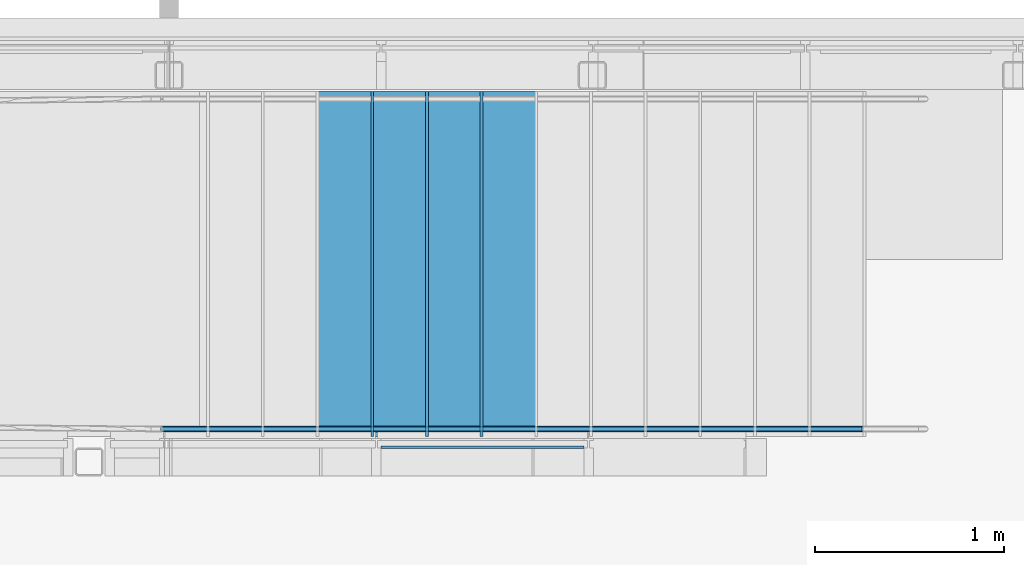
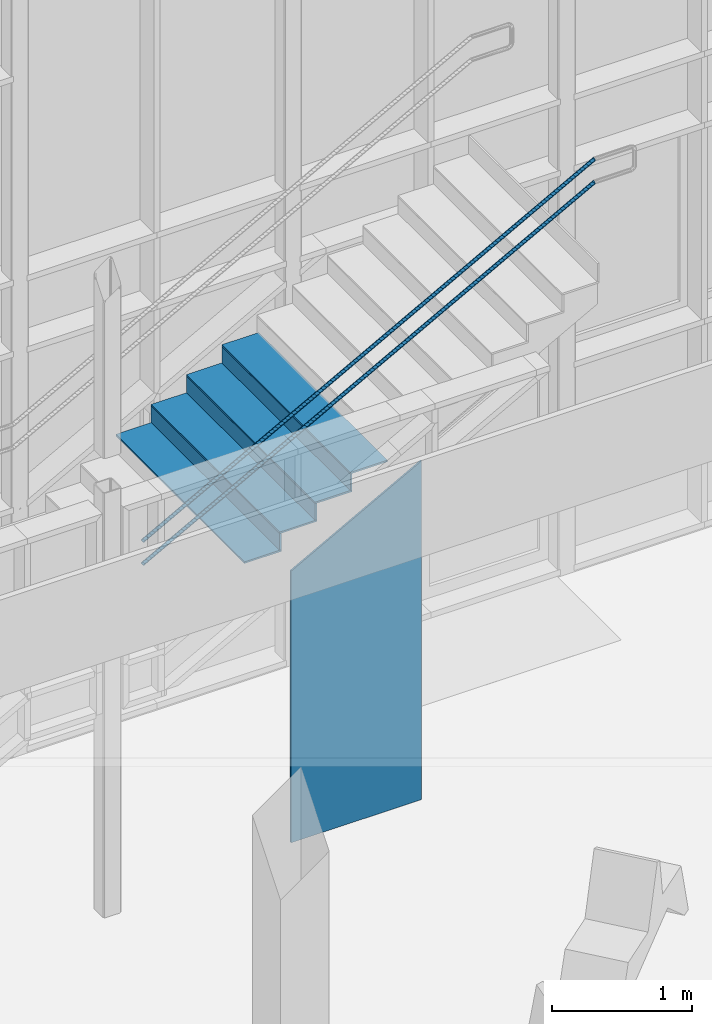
# One storey, part 198 of 301: 9 building element parts, 1 discrete accessory, 2 elements without a shape of their own.
"""IFC2X3 building model written with IfcOpenShell, lengths in millimetres."""

from ifc_helpers import new_model, entity, si_unit, converted_unit, derived_unit, money_unit, direction, frame, origin_with_axes, place, context, subcontext, project, spatial, faceted_brep, material, type_object, element, aggregate, save


model = new_model("IFC2X3")

# Units and contexts
model_context = context("Model", 3, precision=0.01, world=origin_with_axes(), true_north=direction((0.0, 1.0)))
body_context = subcontext(model_context, "Body", "Model", "MODEL_VIEW")
ifc_project = project(units=[si_unit("LENGTHUNIT", "METRE", prefix="MILLI"), si_unit("AREAUNIT", "SQUARE_METRE"), si_unit("VOLUMEUNIT", "CUBIC_METRE"), converted_unit("PLANEANGLEUNIT", "DEGREE", entity("IfcPlaneAngleMeasure", 0.0174532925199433), si_unit("PLANEANGLEUNIT", "RADIAN"), dimensions=[0, 0, 0, 0, 0, 0, 0]), money_unit("EUR"), converted_unit("TIMEUNIT", "Year", entity("IfcTimeMeasure", 31557600.0), si_unit("TIMEUNIT", "SECOND"), dimensions=[0, 0, 1, 0, 0, 0, 0]), si_unit("MASSUNIT", "GRAM", prefix="KILO"), si_unit("THERMODYNAMICTEMPERATUREUNIT", "DEGREE_CELSIUS"), si_unit("LUMINOUSINTENSITYUNIT", "LUMEN"), si_unit("ENERGYUNIT", "JOULE", prefix="MEGA"), derived_unit("THERMALCONDUCTANCEUNIT", [(si_unit("POWERUNIT", "WATT"), 1), (si_unit("LENGTHUNIT", "METRE"), -1), (si_unit("THERMODYNAMICTEMPERATUREUNIT", "KELVIN"), -1)]), derived_unit("SPECIFICHEATCAPACITYUNIT", [(si_unit("ENERGYUNIT", "JOULE"), 1), (si_unit("MASSUNIT", "GRAM", prefix="KILO"), -1), (si_unit("THERMODYNAMICTEMPERATUREUNIT", "KELVIN"), -1)]), derived_unit("MASSDENSITYUNIT", [(si_unit("MASSUNIT", "GRAM", prefix="KILO"), 1), (si_unit("VOLUMEUNIT", "CUBIC_METRE"), -1)])], contexts=[model_context])

# Site, building, storey
site_placement = place(None, frame((0.0, 0.0, 8650.0), z_axis=(0.0, 0.0, 1.0), x_axis=(1.0, 0.0, 0.0)))
site = spatial("IfcSite", under=ifc_project, at=site_placement, Name="43301:001:0844", CompositionType="ELEMENT")
building_placement = place(site_placement, origin_with_axes())
building = spatial("IfcBuilding", under=site, at=building_placement, Name="Kuressaare Ametikooli tuulikute mehaanikute õppekorpus", CompositionType="ELEMENT")
storey_placement = place(building_placement, origin_with_axes())
storey = spatial("IfcBuildingStorey", under=building, at=storey_placement, Name="1.korrus", CompositionType="ELEMENT", Elevation=0.0)

# Discrete accessory
ifc_material_1 = material(Name="GENEERILINE - EHITUSTOODE")
discrete_accessory_type = type_object("IfcDiscreteAccessoryType", Name="GENEERILINE - EHITUSTOODE")
discrete_accessory_placement = place(storey_placement, frame((112767.1024781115, 26455.08295790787, 0.0), z_axis=(0.0, 0.0, 1.0), x_axis=(1.0, 0.0, 0.0)))
element("IfcDiscreteAccessory", 1, at=discrete_accessory_placement, inside=storey, type_object=discrete_accessory_type, material=ifc_material_1, Name="Majajuht", context=body_context, shape_type="Brep", body=[
    faceted_brep([(0.0, 0.0, 2359.085482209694), (0.0, 15.00000000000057, 2359.085482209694), (0.0, 15.00000000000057, 0.0), (0.0, 0.0, 0.0), (1074.999966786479, 15.00000000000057, 2943.6345388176), (1074.999966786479, 15.00000000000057, 0.0), (1074.999966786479, 0.0, 0.0), (1074.999966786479, 0.0, 2943.6345388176)], [[[0, 1, 2, 3]], [[1, 0, 4]], [[2, 1, 4, 5]], [[6, 3, 2, 5]], [[0, 3, 6, 7]], [[0, 7, 4]], [[6, 5, 4]], [[7, 6, 4]]]),
])

# Railing, building element parts
railing_type = type_object("IfcRailingType", Name="Railing Type", PredefinedType="NOTDEFINED")
railing_placement = place(storey_placement, frame((107882.9493746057, 26509.57374875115, 157.6923606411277), z_axis=(0.0, 0.0, 1.0), x_axis=(1.0, 0.0, 0.0)))
railing = element("IfcRailing", 2, at=railing_placement, inside=storey, type_object=railing_type, Name="Piire", PredefinedType="NOTDEFINED")
ifc_material_2 = material(Name="Metall - Teras - Roostevaba")
building_element_part_1_placement = place(railing_placement, origin_with_axes())
building_element_part_1 = element("IfcBuildingElementPart", 3, at=building_element_part_1_placement, material=ifc_material_2, Name="Metall - Teras - Roostevaba", context=body_context, shape_type="Brep", body=[
    faceted_brep([(3723.897436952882, 50.86824088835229, 2602.1154117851), (3723.933724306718, 50.00000000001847, 2602.048678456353), (7439.239325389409, 50.00000000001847, 4622.307692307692), (7439.220008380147, 50.86824088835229, 4622.383653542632), (3728.601950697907, 52.60472266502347, 2593.463696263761), (3728.710812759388, 50.00000000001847, 2593.263496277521), (3728.601950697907, 47.39527733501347, 2593.463696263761), (3728.278672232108, 44.86969785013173, 2594.058213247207), (3727.75080001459, 42.50000000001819, 2595.028983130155), (3727.03437317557, 40.35818585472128, 2596.346509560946), (3726.15115998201, 38.50933335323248, 2597.970760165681), (3725.127996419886, 37.00961894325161, 2599.852382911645), (3723.995970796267, 35.90461068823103, 2601.93420564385), (3722.789479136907, 35.22788370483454, 2604.15297323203), (3721.545180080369, 35.00000000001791, 2606.441269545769), (3720.300881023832, 35.22788370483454, 2608.729565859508), (3719.094389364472, 35.90461068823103, 2610.948333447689), (3717.962363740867, 37.00961894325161, 2613.030156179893), (3716.939200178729, 38.50933335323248, 2614.911778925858), (3716.055986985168, 40.35818585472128, 2616.536029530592), (3715.339560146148, 42.50000000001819, 2617.853555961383), (3714.811687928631, 44.86969785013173, 2618.824325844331), (3714.488409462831, 47.39527733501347, 2619.418842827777), (3714.37954740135, 50.00000000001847, 2619.619042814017), (3714.488409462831, 52.60472266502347, 2619.418842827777), (3714.811687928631, 55.13030214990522, 2618.824325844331), (3715.339560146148, 57.50000000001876, 2617.853555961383), (3716.055986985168, 59.64181414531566, 2616.536029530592), (3716.939200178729, 61.49066664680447, 2614.911778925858), (3717.962363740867, 62.99038105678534, 2613.030156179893), (3719.094389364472, 64.09538931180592, 2610.948333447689), (3720.300881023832, 64.77211629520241, 2608.729565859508), (3721.545180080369, 65.00000000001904, 2606.441269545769), (3722.789479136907, 64.77211629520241, 2604.15297323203), (3723.995970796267, 64.09538931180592, 2601.93420564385), (3725.127996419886, 62.99038105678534, 2599.852382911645), (3726.15115998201, 61.49066664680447, 2597.970760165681), (3727.03437317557, 59.64181414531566, 2596.346509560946), (3727.75080001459, 57.50000000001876, 2595.028983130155), (3728.278672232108, 55.13030214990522, 2594.058213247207), (3723.897436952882, 49.13175911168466, 2602.1154117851), (3723.789677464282, 51.71010071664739, 2602.313584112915), (3723.613720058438, 52.50000000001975, 2602.637174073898), (3723.374911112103, 53.21393804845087, 2603.076349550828), (3723.080506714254, 53.83022221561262, 2603.617766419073), (3722.739452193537, 54.33012701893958, 2604.244974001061), (3722.362110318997, 54.69846310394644, 2604.938914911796), (3721.959946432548, 54.92403876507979, 2605.678504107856), (3721.545180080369, 55.00000000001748, 2606.441269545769), (3721.13041372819, 54.92403876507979, 2607.204034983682), (3720.728249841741, 54.69846310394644, 2607.943624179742), (3720.350907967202, 54.33012701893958, 2608.637565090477), (3720.009853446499, 53.83022221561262, 2609.264772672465), (3719.715449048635, 53.21393804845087, 2609.80618954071), (3719.4766401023, 52.50000000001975, 2610.24536501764), (3719.300682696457, 51.71010071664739, 2610.568954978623), (3719.192923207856, 50.86824088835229, 2610.767127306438), (3719.156635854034, 50.00000000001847, 2610.833860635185), (3719.192923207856, 49.13175911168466, 2610.767127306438), (3719.300682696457, 48.28989928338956, 2610.568954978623), (3719.4766401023, 47.5000000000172, 2610.24536501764), (3719.715449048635, 46.78606195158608, 2609.80618954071), (3720.009853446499, 46.16977778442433, 2609.264772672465), (3720.350907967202, 45.66987298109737, 2608.637565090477), (3720.728249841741, 45.30153689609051, 2607.943624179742), (3721.13041372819, 45.07596123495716, 2607.204034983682), (3721.545180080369, 45.00000000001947, 2606.441269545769), (3721.959946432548, 45.07596123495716, 2605.678504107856), (3722.362110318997, 45.30153689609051, 2604.938914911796), (3722.739452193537, 45.66987298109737, 2604.244974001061), (3723.080506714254, 46.16977778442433, 2603.617766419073), (3723.374911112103, 46.78606195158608, 2603.076349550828), (3723.613720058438, 47.5000000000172, 2602.637174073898), (3723.789677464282, 48.28989928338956, 2602.313584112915), (7439.220008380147, 49.13175911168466, 4622.383653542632), (7439.875077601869, 62.99038105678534, 4619.807692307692), (7439.272461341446, 64.09538931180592, 4622.177390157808), (7438.630204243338, 64.77211629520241, 4624.702969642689), (7437.967820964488, 65.00000000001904, 4627.307692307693), (7437.305437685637, 64.77211629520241, 4629.912414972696), (7436.66318058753, 64.09538931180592, 4632.437994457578), (7436.060564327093, 62.99038105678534, 4634.807692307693), (7435.515899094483, 61.49066664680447, 4636.94950645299), (7435.045734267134, 59.64181414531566, 4638.798358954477), (7434.664355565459, 57.50000000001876, 4640.29807336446), (7434.383350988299, 55.13030214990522, 4641.403081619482), (7434.211258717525, 52.60472266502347, 4642.079808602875), (7434.153307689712, 50.00000000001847, 4642.307692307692), (7434.211258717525, 47.39527733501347, 4642.079808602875), (7434.383350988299, 44.86969785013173, 4641.403081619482), (7434.664355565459, 42.50000000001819, 4640.29807336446), (7435.045734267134, 40.35818585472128, 4638.798358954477), (7435.515899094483, 38.50933335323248, 4636.94950645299), (7436.060564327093, 37.00961894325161, 4634.807692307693), (7436.66318058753, 35.90461068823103, 4632.437994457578), (7437.305437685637, 35.22788370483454, 4629.912414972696), (7437.967820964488, 35.00000000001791, 4627.307692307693), (7438.630204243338, 35.22788370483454, 4624.702969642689), (7439.272461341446, 35.90461068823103, 4622.177390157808), (7439.875077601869, 37.00961894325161, 4619.807692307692), (7440.419742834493, 38.50933335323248, 4617.665878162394), (7440.889907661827, 40.35818585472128, 4615.817025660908), (7441.271286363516, 42.50000000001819, 4614.317311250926), (7441.552290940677, 44.86969785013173, 4613.212302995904), (7441.724383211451, 47.39527733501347, 4612.535576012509), (7441.782334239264, 50.00000000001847, 4612.307692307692), (7441.724383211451, 52.60472266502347, 4612.535576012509), (7441.552290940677, 55.13030214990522, 4613.212302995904), (7441.271286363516, 57.50000000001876, 4614.317311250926), (7440.889907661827, 59.64181414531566, 4615.817025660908), (7440.419742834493, 61.49066664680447, 4617.665878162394), (7437.332068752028, 54.33012701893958, 4629.807692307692), (7437.532940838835, 54.69846310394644, 4629.017793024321), (7437.747026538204, 54.92403876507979, 4628.175933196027), (7437.967820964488, 55.00000000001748, 4627.307692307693), (7438.188615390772, 54.92403876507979, 4626.439451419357), (7438.402701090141, 54.69846310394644, 4625.597591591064), (7438.603573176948, 54.33012701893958, 4624.807692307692), (7438.785128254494, 53.83022221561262, 4624.093754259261), (7438.941849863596, 53.21393804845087, 4623.477470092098), (7439.068976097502, 52.50000000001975, 4622.97756528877), (7439.16264428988, 51.71010071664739, 4622.609229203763), (7439.16264428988, 48.28989928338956, 4622.609229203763), (7439.068976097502, 47.5000000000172, 4622.97756528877), (7438.941849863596, 46.78606195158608, 4623.477470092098), (7438.785128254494, 46.16977778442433, 4624.093754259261), (7438.603573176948, 45.66987298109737, 4624.807692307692), (7438.402701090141, 45.30153689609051, 4625.597591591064), (7438.188615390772, 45.07596123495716, 4626.439451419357), (7437.967820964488, 45.00000000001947, 4627.307692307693), (7437.747026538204, 45.07596123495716, 4628.175933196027), (7437.532940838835, 45.30153689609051, 4629.017793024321), (7437.332068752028, 45.66987298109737, 4629.807692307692), (7437.150513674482, 46.16977778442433, 4630.521630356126), (7436.993792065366, 46.78606195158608, 4631.137914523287), (7436.866665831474, 47.5000000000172, 4631.637819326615), (7436.772997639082, 48.28989928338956, 4632.006155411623), (7436.715633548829, 49.13175911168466, 4632.231731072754), (7436.696316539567, 50.00000000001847, 4632.307692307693), (7436.715633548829, 50.86824088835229, 4632.231731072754), (7436.772997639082, 51.71010071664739, 4632.006155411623), (7436.866665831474, 52.50000000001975, 4631.637819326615), (7436.993792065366, 53.21393804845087, 4631.137914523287), (7437.150513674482, 53.83022221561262, 4630.521630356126)], [[[0, 1, 2, 3]], [[4, 5, 6, 7, 8, 9, 10, 11, 12, 13, 14, 15, 16, 17, 18, 19, 20, 21, 22, 23, 24, 25, 26, 27, 28, 29, 30, 31, 32, 33, 34, 35, 36, 37, 38, 39], [40, 1, 0, 41, 42, 43, 44, 45, 46, 47, 48, 49, 50, 51, 52, 53, 54, 55, 56, 57, 58, 59, 60, 61, 62, 63, 64, 65, 66, 67, 68, 69, 70, 71, 72, 73]], [[1, 40, 74, 2]], [[75, 76, 77, 78, 79, 80, 81, 82, 83, 84, 85, 86, 87, 88, 89, 90, 91, 92, 93, 94, 95, 96, 97, 98, 99, 100, 101, 102, 103, 104, 105, 106, 107, 108, 109, 110], [111, 112, 113, 114, 115, 116, 117, 118, 119, 120, 121, 3, 2, 74, 122, 123, 124, 125, 126, 127, 128, 129, 130, 131, 132, 133, 134, 135, 136, 137, 138, 139, 140, 141, 142, 143]], [[41, 0, 3, 121]], [[5, 4, 106, 105]], [[6, 5, 105, 104]], [[7, 6, 104, 103]], [[8, 7, 103, 102]], [[9, 8, 102, 101]], [[10, 9, 101, 100]], [[11, 10, 100, 99]], [[12, 11, 99, 98]], [[13, 12, 98, 97]], [[14, 13, 97, 96]], [[15, 14, 96, 95]], [[16, 15, 95, 94]], [[17, 16, 94, 93]], [[18, 17, 93, 92]], [[19, 18, 92, 91]], [[20, 19, 91, 90]], [[21, 20, 90, 89]], [[22, 21, 89, 88]], [[23, 22, 88, 87]], [[24, 23, 87, 86]], [[25, 24, 86, 85]], [[26, 25, 85, 84]], [[27, 26, 84, 83]], [[28, 27, 83, 82]], [[29, 28, 82, 81]], [[30, 29, 81, 80]], [[31, 30, 80, 79]], [[32, 31, 79, 78]], [[33, 32, 78, 77]], [[34, 33, 77, 76]], [[35, 34, 76, 75]], [[36, 35, 75, 110]], [[37, 36, 110, 109]], [[38, 37, 109, 108]], [[39, 38, 108, 107]], [[4, 39, 107, 106]], [[42, 41, 121, 120]], [[43, 42, 120, 119]], [[44, 43, 119, 118]], [[45, 44, 118, 117]], [[46, 45, 117, 116]], [[47, 46, 116, 115]], [[48, 47, 115, 114]], [[49, 48, 114, 113]], [[50, 49, 113, 112]], [[51, 50, 112, 111]], [[52, 51, 111, 143]], [[53, 52, 143, 142]], [[54, 53, 142, 141]], [[55, 54, 141, 140]], [[56, 55, 140, 139]], [[57, 56, 139, 138]], [[58, 57, 138, 137]], [[59, 58, 137, 136]], [[60, 59, 136, 135]], [[61, 60, 135, 134]], [[62, 61, 134, 133]], [[63, 62, 133, 132]], [[64, 63, 132, 131]], [[65, 64, 131, 130]], [[66, 65, 130, 129]], [[67, 66, 129, 128]], [[68, 67, 128, 127]], [[69, 68, 127, 126]], [[70, 69, 126, 125]], [[71, 70, 125, 124]], [[72, 71, 124, 123]], [[73, 72, 123, 122]], [[40, 73, 122, 74]]]),
])
building_element_part_2_placement = place(railing_placement, origin_with_axes())
building_element_part_2 = element("IfcBuildingElementPart", 4, at=building_element_part_2_placement, material=ifc_material_2, Name="Metall - Teras - Roostevaba", context=body_context, shape_type="Brep", body=[
    faceted_brep([(3723.897436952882, 50.86824088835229, 2802.1154117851), (3723.933724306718, 50.00000000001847, 2802.048678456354), (7439.239325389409, 50.00000000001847, 4822.307692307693), (7439.220008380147, 50.86824088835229, 4822.383653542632), (3728.601950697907, 52.60472266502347, 2793.463696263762), (3728.710812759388, 50.00000000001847, 2793.263496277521), (3728.601950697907, 47.39527733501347, 2793.463696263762), (3728.278672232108, 44.86969785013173, 2794.058213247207), (3727.75080001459, 42.50000000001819, 2795.028983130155), (3727.03437317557, 40.35818585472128, 2796.346509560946), (3726.15115998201, 38.50933335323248, 2797.970760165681), (3725.127996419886, 37.00961894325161, 2799.852382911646), (3723.995970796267, 35.90461068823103, 2801.93420564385), (3722.789479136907, 35.22788370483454, 2804.15297323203), (3721.545180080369, 35.00000000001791, 2806.441269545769), (3720.300881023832, 35.22788370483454, 2808.729565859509), (3719.094389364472, 35.90461068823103, 2810.948333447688), (3717.962363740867, 37.00961894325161, 2813.030156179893), (3716.939200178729, 38.50933335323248, 2814.911778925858), (3716.055986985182, 40.35818585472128, 2816.536029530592), (3715.339560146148, 42.50000000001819, 2817.853555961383), (3714.811687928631, 44.86969785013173, 2818.824325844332), (3714.488409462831, 47.39527733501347, 2819.418842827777), (3714.37954740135, 50.00000000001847, 2819.619042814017), (3714.488409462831, 52.60472266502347, 2819.418842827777), (3714.811687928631, 55.13030214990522, 2818.824325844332), (3715.339560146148, 57.50000000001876, 2817.853555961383), (3716.055986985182, 59.64181414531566, 2816.536029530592), (3716.939200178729, 61.49066664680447, 2814.911778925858), (3717.962363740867, 62.99038105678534, 2813.030156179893), (3719.094389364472, 64.09538931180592, 2810.948333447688), (3720.300881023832, 64.77211629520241, 2808.729565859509), (3721.545180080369, 65.00000000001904, 2806.441269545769), (3722.789479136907, 64.77211629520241, 2804.15297323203), (3723.995970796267, 64.09538931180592, 2801.93420564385), (3725.127996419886, 62.99038105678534, 2799.852382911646), (3726.15115998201, 61.49066664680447, 2797.970760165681), (3727.03437317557, 59.64181414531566, 2796.346509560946), (3727.75080001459, 57.50000000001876, 2795.028983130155), (3728.278672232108, 55.13030214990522, 2794.058213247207), (3723.897436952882, 49.13175911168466, 2802.1154117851), (3723.789677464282, 51.71010071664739, 2802.313584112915), (3723.613720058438, 52.50000000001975, 2802.637174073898), (3723.374911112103, 53.21393804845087, 2803.076349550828), (3723.080506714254, 53.83022221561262, 2803.617766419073), (3722.739452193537, 54.33012701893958, 2804.244974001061), (3722.362110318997, 54.69846310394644, 2804.938914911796), (3721.959946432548, 54.92403876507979, 2805.678504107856), (3721.545180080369, 55.00000000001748, 2806.441269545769), (3721.13041372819, 54.92403876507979, 2807.204034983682), (3720.728249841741, 54.69846310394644, 2807.943624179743), (3720.350907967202, 54.33012701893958, 2808.637565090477), (3720.009853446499, 53.83022221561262, 2809.264772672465), (3719.715449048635, 53.21393804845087, 2809.80618954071), (3719.4766401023, 52.50000000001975, 2810.245365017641), (3719.300682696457, 51.71010071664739, 2810.568954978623), (3719.192923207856, 50.86824088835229, 2810.767127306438), (3719.156635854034, 50.00000000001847, 2810.833860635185), (3719.192923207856, 49.13175911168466, 2810.767127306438), (3719.300682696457, 48.28989928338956, 2810.568954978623), (3719.4766401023, 47.5000000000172, 2810.245365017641), (3719.715449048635, 46.78606195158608, 2809.80618954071), (3720.009853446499, 46.16977778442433, 2809.264772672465), (3720.350907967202, 45.66987298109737, 2808.637565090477), (3720.728249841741, 45.30153689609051, 2807.943624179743), (3721.13041372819, 45.07596123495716, 2807.204034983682), (3721.545180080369, 45.00000000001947, 2806.441269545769), (3721.959946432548, 45.07596123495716, 2805.678504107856), (3722.362110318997, 45.30153689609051, 2804.938914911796), (3722.739452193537, 45.66987298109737, 2804.244974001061), (3723.080506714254, 46.16977778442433, 2803.617766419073), (3723.374911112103, 46.78606195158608, 2803.076349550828), (3723.613720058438, 47.5000000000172, 2802.637174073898), (3723.789677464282, 48.28989928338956, 2802.313584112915), (7439.220008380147, 49.13175911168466, 4822.383653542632), (7439.875077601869, 62.99038105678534, 4819.807692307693), (7439.272461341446, 64.09538931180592, 4822.177390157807), (7438.630204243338, 64.77211629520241, 4824.702969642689), (7437.967820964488, 65.00000000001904, 4827.307692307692), (7437.305437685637, 64.77211629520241, 4829.912414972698), (7436.66318058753, 64.09538931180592, 4832.437994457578), (7436.060564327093, 62.99038105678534, 4834.807692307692), (7435.515899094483, 61.49066664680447, 4836.949506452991), (7435.045734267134, 59.64181414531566, 4838.798358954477), (7434.664355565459, 57.50000000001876, 4840.298073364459), (7434.383350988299, 55.13030214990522, 4841.403081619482), (7434.211258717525, 52.60472266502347, 4842.079808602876), (7434.153307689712, 50.00000000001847, 4842.307692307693), (7434.211258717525, 47.39527733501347, 4842.079808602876), (7434.383350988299, 44.86969785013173, 4841.403081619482), (7434.664355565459, 42.50000000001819, 4840.298073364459), (7435.045734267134, 40.35818585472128, 4838.798358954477), (7435.515899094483, 38.50933335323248, 4836.949506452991), (7436.060564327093, 37.00961894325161, 4834.807692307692), (7436.66318058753, 35.90461068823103, 4832.437994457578), (7437.305437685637, 35.22788370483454, 4829.912414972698), (7437.967820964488, 35.00000000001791, 4827.307692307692), (7438.630204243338, 35.22788370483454, 4824.702969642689), (7439.272461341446, 35.90461068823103, 4822.177390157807), (7439.875077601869, 37.00961894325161, 4819.807692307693), (7440.419742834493, 38.50933335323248, 4817.665878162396), (7440.889907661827, 40.35818585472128, 4815.817025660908), (7441.271286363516, 42.50000000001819, 4814.317311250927), (7441.552290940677, 44.86969785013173, 4813.212302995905), (7441.724383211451, 47.39527733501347, 4812.53557601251), (7441.782334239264, 50.00000000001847, 4812.307692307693), (7441.724383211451, 52.60472266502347, 4812.53557601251), (7441.552290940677, 55.13030214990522, 4813.212302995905), (7441.271286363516, 57.50000000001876, 4814.317311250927), (7440.889907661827, 59.64181414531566, 4815.817025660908), (7440.419742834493, 61.49066664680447, 4817.665878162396), (7437.332068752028, 54.33012701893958, 4829.807692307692), (7437.532940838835, 54.69846310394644, 4829.017793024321), (7437.747026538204, 54.92403876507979, 4828.175933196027), (7437.967820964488, 55.00000000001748, 4827.307692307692), (7438.188615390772, 54.92403876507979, 4826.439451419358), (7438.402701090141, 54.69846310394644, 4825.597591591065), (7438.603573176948, 54.33012701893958, 4824.807692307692), (7438.785128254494, 53.83022221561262, 4824.09375425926), (7438.941849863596, 53.21393804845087, 4823.477470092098), (7439.068976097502, 52.50000000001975, 4822.977565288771), (7439.16264428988, 51.71010071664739, 4822.609229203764), (7439.16264428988, 48.28989928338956, 4822.609229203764), (7439.068976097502, 47.5000000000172, 4822.977565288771), (7438.941849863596, 46.78606195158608, 4823.477470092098), (7438.785128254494, 46.16977778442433, 4824.09375425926), (7438.603573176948, 45.66987298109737, 4824.807692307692), (7438.402701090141, 45.30153689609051, 4825.597591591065), (7438.188615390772, 45.07596123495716, 4826.439451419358), (7437.967820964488, 45.00000000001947, 4827.307692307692), (7437.747026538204, 45.07596123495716, 4828.175933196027), (7437.532940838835, 45.30153689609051, 4829.017793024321), (7437.332068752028, 45.66987298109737, 4829.807692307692), (7437.150513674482, 46.16977778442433, 4830.521630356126), (7436.993792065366, 46.78606195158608, 4831.137914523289), (7436.866665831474, 47.5000000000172, 4831.637819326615), (7436.772997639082, 48.28989928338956, 4832.006155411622), (7436.715633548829, 49.13175911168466, 4832.231731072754), (7436.696316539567, 50.00000000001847, 4832.307692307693), (7436.715633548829, 50.86824088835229, 4832.231731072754), (7436.772997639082, 51.71010071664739, 4832.006155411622), (7436.866665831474, 52.50000000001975, 4831.637819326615), (7436.993792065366, 53.21393804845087, 4831.137914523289), (7437.150513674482, 53.83022221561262, 4830.521630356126)], [[[0, 1, 2, 3]], [[4, 5, 6, 7, 8, 9, 10, 11, 12, 13, 14, 15, 16, 17, 18, 19, 20, 21, 22, 23, 24, 25, 26, 27, 28, 29, 30, 31, 32, 33, 34, 35, 36, 37, 38, 39], [40, 1, 0, 41, 42, 43, 44, 45, 46, 47, 48, 49, 50, 51, 52, 53, 54, 55, 56, 57, 58, 59, 60, 61, 62, 63, 64, 65, 66, 67, 68, 69, 70, 71, 72, 73]], [[1, 40, 74, 2]], [[75, 76, 77, 78, 79, 80, 81, 82, 83, 84, 85, 86, 87, 88, 89, 90, 91, 92, 93, 94, 95, 96, 97, 98, 99, 100, 101, 102, 103, 104, 105, 106, 107, 108, 109, 110], [111, 112, 113, 114, 115, 116, 117, 118, 119, 120, 121, 3, 2, 74, 122, 123, 124, 125, 126, 127, 128, 129, 130, 131, 132, 133, 134, 135, 136, 137, 138, 139, 140, 141, 142, 143]], [[41, 0, 3, 121]], [[5, 4, 106, 105]], [[6, 5, 105, 104]], [[7, 6, 104, 103]], [[8, 7, 103, 102]], [[9, 8, 102, 101]], [[10, 9, 101, 100]], [[11, 10, 100, 99]], [[12, 11, 99, 98]], [[13, 12, 98, 97]], [[14, 13, 97, 96]], [[15, 14, 96, 95]], [[16, 15, 95, 94]], [[17, 16, 94, 93]], [[18, 17, 93, 92]], [[19, 18, 92, 91]], [[20, 19, 91, 90]], [[21, 20, 90, 89]], [[22, 21, 89, 88]], [[23, 22, 88, 87]], [[24, 23, 87, 86]], [[25, 24, 86, 85]], [[26, 25, 85, 84]], [[27, 26, 84, 83]], [[28, 27, 83, 82]], [[29, 28, 82, 81]], [[30, 29, 81, 80]], [[31, 30, 80, 79]], [[32, 31, 79, 78]], [[33, 32, 78, 77]], [[34, 33, 77, 76]], [[35, 34, 76, 75]], [[36, 35, 75, 110]], [[37, 36, 110, 109]], [[38, 37, 109, 108]], [[39, 38, 108, 107]], [[4, 39, 107, 106]], [[42, 41, 121, 120]], [[43, 42, 120, 119]], [[44, 43, 119, 118]], [[45, 44, 118, 117]], [[46, 45, 117, 116]], [[47, 46, 116, 115]], [[48, 47, 115, 114]], [[49, 48, 114, 113]], [[50, 49, 113, 112]], [[51, 50, 112, 111]], [[52, 51, 111, 143]], [[53, 52, 143, 142]], [[54, 53, 142, 141]], [[55, 54, 141, 140]], [[56, 55, 140, 139]], [[57, 56, 139, 138]], [[58, 57, 138, 137]], [[59, 58, 137, 136]], [[60, 59, 136, 135]], [[61, 60, 135, 134]], [[62, 61, 134, 133]], [[63, 62, 133, 132]], [[64, 63, 132, 131]], [[65, 64, 131, 130]], [[66, 65, 130, 129]], [[67, 66, 129, 128]], [[68, 67, 128, 127]], [[69, 68, 127, 126]], [[70, 69, 126, 125]], [[71, 70, 125, 124]], [[72, 71, 124, 123]], [[73, 72, 123, 122]], [[40, 73, 122, 74]]]),
])
aggregate(railing, [building_element_part_1, building_element_part_2])

# Stair, building element parts
stair_placement = place(storey_placement, frame((106962.1026822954, 28349.57374875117, 5.294881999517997e-05), z_axis=(0.0, 0.0, 1.0), x_axis=(1.0, 0.0, 0.0)))
stair = element("IfcStair", 5, at=stair_placement, inside=storey, Name="Trepp1", ShapeType="NOTDEFINED")
ifc_material_3 = material(Name="GENEERILINE - SISEMINE VIIMISTLUS")
building_element_part_3_placement = place(stair_placement, origin_with_axes())
building_element_part_3 = element("IfcBuildingElementPart", 6, at=building_element_part_3_placement, material=ifc_material_3, Name="GENEERILINE - SISEMINE VIIMISTLUS", context=body_context, shape_type="Brep", body=[
    faceted_brep([(5750.000022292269, -1829.999981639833, 2665.76923076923), (5765.00002229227, -1829.999981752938, 2665.76923076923), (5765.000036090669, 1.824706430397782e-05, 2665.76923076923), (5750.000036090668, 1.836016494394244e-05, 2665.76923076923), (5750.000022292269, -1829.999981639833, 2523.076923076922), (5765.00002229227, -1829.999981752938, 2523.076923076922), (5765.000036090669, 1.824706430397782e-05, 2523.076923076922), (5750.000036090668, 1.836016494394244e-05, 2523.076923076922)], [[[0, 1, 2, 3]], [[0, 4, 5, 1]], [[1, 5, 6, 2]], [[3, 2, 6, 7]], [[4, 0, 3, 7]], [[5, 4, 7, 6]]]),
])
building_element_part_4_placement = place(stair_placement, origin_with_axes())
building_element_part_4 = element("IfcBuildingElementPart", 7, at=building_element_part_4_placement, material=ifc_material_3, Name="GENEERILINE - SISEMINE VIIMISTLUS", context=body_context, shape_type="Brep", body=[
    faceted_brep([(6040.000022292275, -1829.999983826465, 2823.461538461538), (6055.000022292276, -1829.999983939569, 2823.461538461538), (6055.000036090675, 1.606043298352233e-05, 2823.461538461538), (6040.000036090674, 1.617353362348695e-05, 2823.461538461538), (6040.000022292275, -1829.999983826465, 2680.76923076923), (6055.000022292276, -1829.999983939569, 2680.76923076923), (6055.000036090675, 1.606043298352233e-05, 2680.76923076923), (6040.000036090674, 1.617353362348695e-05, 2680.76923076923)], [[[0, 1, 2, 3]], [[0, 4, 5, 1]], [[1, 5, 6, 2]], [[3, 2, 6, 7]], [[4, 0, 3, 7]], [[5, 4, 7, 6]]]),
])
building_element_part_5_placement = place(stair_placement, origin_with_axes())
building_element_part_5 = element("IfcBuildingElementPart", 8, at=building_element_part_5_placement, material=ifc_material_3, Name="GENEERILINE - SISEMINE VIIMISTLUS", context=body_context, shape_type="Brep", body=[
    faceted_brep([(6330.000022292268, -1829.999986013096, 2981.153846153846), (6345.000022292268, -1829.9999861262, 2981.153846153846), (6345.000036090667, 1.387380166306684e-05, 2981.153846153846), (6330.000036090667, 1.398690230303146e-05, 2981.153846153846), (6330.000022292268, -1829.999986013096, 2838.461538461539), (6345.000022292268, -1829.9999861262, 2838.461538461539), (6345.000036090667, 1.387380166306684e-05, 2838.461538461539), (6330.000036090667, 1.398690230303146e-05, 2838.461538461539)], [[[0, 1, 2, 3]], [[0, 4, 5, 1]], [[1, 5, 6, 2]], [[3, 2, 6, 7]], [[4, 0, 3, 7]], [[5, 4, 7, 6]]]),
])
building_element_part_6_placement = place(stair_placement, origin_with_axes())
building_element_part_6 = element("IfcBuildingElementPart", 9, at=building_element_part_6_placement, material=ifc_material_3, Name="GENEERILINE - SISEMINE VIIMISTLUS", context=body_context, shape_type="Brep", body=[
    faceted_brep([(5460.000036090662, 2.054679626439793e-05, 2508.076923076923), (5460.000022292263, -1829.999979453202, 2508.076923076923), (5460.000022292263, -1829.999979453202, 2523.076923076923), (5460.000036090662, 2.054679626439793e-05, 2523.076923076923), (5765.000023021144, 1.824706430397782e-05, 2508.076923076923), (5765.000023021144, -1829.999981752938, 2508.076923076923), (5765.000023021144, -1829.999981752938, 2523.076923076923), (5765.000023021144, 1.824706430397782e-05, 2523.076923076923)], [[[0, 1, 2, 3]], [[0, 4, 5, 1]], [[1, 5, 6, 2]], [[3, 2, 6, 7]], [[4, 0, 3, 7]], [[5, 4, 7, 6]]]),
])
building_element_part_7_placement = place(stair_placement, origin_with_axes())
building_element_part_7 = element("IfcBuildingElementPart", 10, at=building_element_part_7_placement, material=ifc_material_3, Name="GENEERILINE - SISEMINE VIIMISTLUS", context=body_context, shape_type="Brep", body=[
    faceted_brep([(5750.000036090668, 1.836016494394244e-05, 2665.76923076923), (5750.000022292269, -1829.999981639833, 2665.76923076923), (5750.000022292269, -1829.999981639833, 2680.76923076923), (5750.000036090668, 1.836016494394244e-05, 2680.76923076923), (6055.000022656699, 1.606043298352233e-05, 2665.76923076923), (6055.000022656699, -1829.999983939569, 2665.76923076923), (6055.000022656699, -1829.999983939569, 2680.76923076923), (6055.000022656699, 1.606043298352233e-05, 2680.76923076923)], [[[0, 1, 2, 3]], [[0, 4, 5, 1]], [[1, 5, 6, 2]], [[3, 2, 6, 7]], [[4, 0, 3, 7]], [[5, 4, 7, 6]]]),
])
building_element_part_8_placement = place(stair_placement, origin_with_axes())
building_element_part_8 = element("IfcBuildingElementPart", 11, at=building_element_part_8_placement, material=ifc_material_3, Name="GENEERILINE - SISEMINE VIIMISTLUS", context=body_context, shape_type="Brep", body=[
    faceted_brep([(6040.000036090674, 1.617353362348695e-05, 2823.461538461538), (6040.000022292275, -1829.999983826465, 2823.461538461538), (6040.000022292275, -1829.999983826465, 2838.461538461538), (6040.000036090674, 1.617353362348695e-05, 2838.461538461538), (6345.000024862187, 1.387380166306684e-05, 2823.461538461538), (6345.000024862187, -1829.9999861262, 2823.461538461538), (6345.000024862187, -1829.9999861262, 2838.461538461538), (6345.000024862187, 1.387380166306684e-05, 2838.461538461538)], [[[0, 1, 2, 3]], [[0, 4, 5, 1]], [[1, 5, 6, 2]], [[3, 2, 6, 7]], [[4, 0, 3, 7]], [[5, 4, 7, 6]]]),
])
building_element_part_9_placement = place(stair_placement, origin_with_axes())
building_element_part_9 = element("IfcBuildingElementPart", 12, at=building_element_part_9_placement, material=ifc_material_3, Name="GENEERILINE - SISEMINE VIIMISTLUS", context=body_context, shape_type="Brep", body=[
    faceted_brep([(6330.000036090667, 1.398690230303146e-05, 2981.153846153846), (6330.000022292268, -1829.999986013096, 2981.153846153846), (6330.000022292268, -1829.999986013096, 2996.153846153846), (6330.000036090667, 1.398690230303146e-05, 2996.153846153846), (6635.000024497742, 1.168717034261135e-05, 2981.153846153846), (6635.000024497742, -1829.999988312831, 2981.153846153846), (6635.000024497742, -1829.999988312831, 2996.153846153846), (6635.000024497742, 1.168717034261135e-05, 2996.153846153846)], [[[0, 1, 2, 3]], [[0, 4, 5, 1]], [[1, 5, 6, 2]], [[3, 2, 6, 7]], [[4, 0, 3, 7]], [[5, 4, 7, 6]]]),
])
aggregate(stair, [building_element_part_3, building_element_part_4, building_element_part_5, building_element_part_6, building_element_part_7, building_element_part_8, building_element_part_9])

save(model, "model.ifc")
